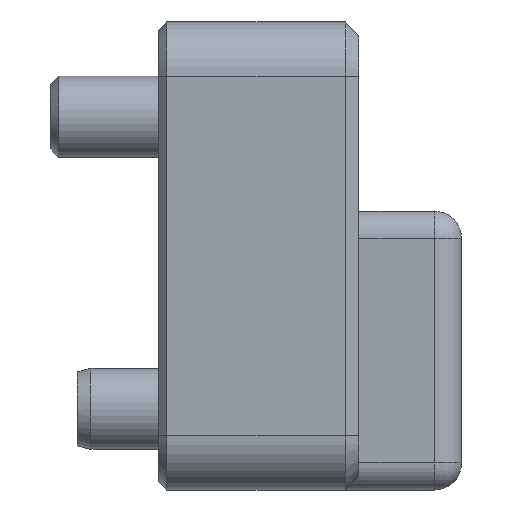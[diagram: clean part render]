
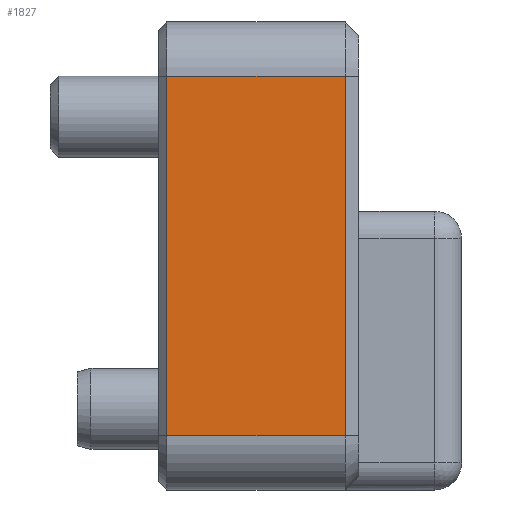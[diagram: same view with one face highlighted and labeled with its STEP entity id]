
A CAD part, left-side view. The second image highlights one B-rep face of the part: STEP entity #1827.
In plain terms, the highlighted planar face has unit normal (-1, 0, 0).
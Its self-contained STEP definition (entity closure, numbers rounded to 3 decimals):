
#81=PLANE('',#2011);
#180=FACE_OUTER_BOUND('',#295,.T.);
#295=EDGE_LOOP('',(#1357,#1358,#1359,#1360));
#421=LINE('',#2926,#564);
#427=LINE('',#2944,#570);
#429=LINE('',#2950,#572);
#430=LINE('',#2951,#573);
#564=VECTOR('',#2350,10.);
#570=VECTOR('',#2368,10.);
#572=VECTOR('',#2374,10.);
#573=VECTOR('',#2375,10.);
#817=VERTEX_POINT('',#2919);
#819=VERTEX_POINT('',#2925);
#825=VERTEX_POINT('',#2943);
#827=VERTEX_POINT('',#2949);
#1006=EDGE_CURVE('',#817,#819,#421,.T.);
#1015=EDGE_CURVE('',#819,#825,#427,.T.);
#1018=EDGE_CURVE('',#827,#817,#429,.T.);
#1019=EDGE_CURVE('',#825,#827,#430,.T.);
#1357=ORIENTED_EDGE('',*,*,#1006,.F.);
#1358=ORIENTED_EDGE('',*,*,#1018,.F.);
#1359=ORIENTED_EDGE('',*,*,#1019,.F.);
#1360=ORIENTED_EDGE('',*,*,#1015,.F.);
#1827=ADVANCED_FACE('',(#180),#81,.T.);
#2011=AXIS2_PLACEMENT_3D('',#2948,#2372,#2373);
#2350=DIRECTION('',(0.,0.,-1.));
#2368=DIRECTION('',(0.,1.,0.));
#2372=DIRECTION('center_axis',(-1.,0.,0.));
#2373=DIRECTION('ref_axis',(0.,-1.,0.));
#2374=DIRECTION('',(0.,-1.,0.));
#2375=DIRECTION('',(0.,0.,1.));
#2919=CARTESIAN_POINT('',(-15.5,-3.9,15.3));
#2925=CARTESIAN_POINT('',(-15.5,-3.9,2.));
#2926=CARTESIAN_POINT('',(-15.5,-3.9,0.));
#2943=CARTESIAN_POINT('',(-15.5,2.7,2.));
#2944=CARTESIAN_POINT('',(-15.5,0.335,2.));
#2948=CARTESIAN_POINT('Origin',(-15.5,3.,0.));
#2949=CARTESIAN_POINT('',(-15.5,2.7,15.3));
#2950=CARTESIAN_POINT('',(-15.5,0.335,15.3));
#2951=CARTESIAN_POINT('',(-15.5,2.7,0.));
